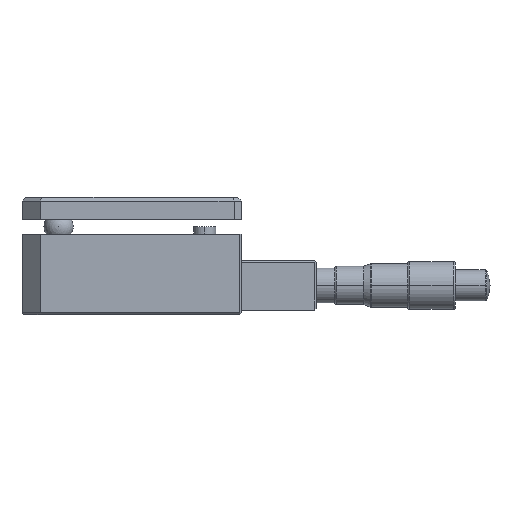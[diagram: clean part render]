
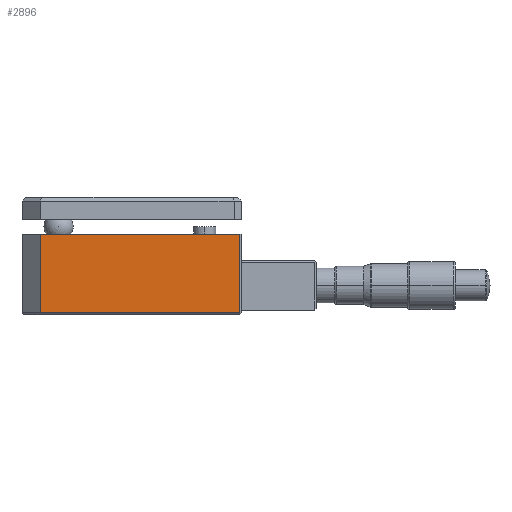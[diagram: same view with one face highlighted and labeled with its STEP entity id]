
A CAD part, left-side view. The second image highlights one B-rep face of the part: STEP entity #2896.
In plain terms, the highlighted planar face has unit normal (1, 0, 0).
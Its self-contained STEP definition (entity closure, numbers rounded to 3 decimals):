
#11 = CARTESIAN_POINT ( 'NONE',  ( -105.13, -10.578, 137.476 ) ) ;
#117 = VECTOR ( 'NONE', #2622, 1000. ) ;
#190 = FACE_OUTER_BOUND ( 'NONE', #4386, .T. ) ;
#527 = EDGE_CURVE ( 'NONE', #2999, #1494, #2511, .T. ) ;
#961 = VECTOR ( 'NONE', #3886, 1000. ) ;
#1223 = VECTOR ( 'NONE', #7221, 1000. ) ;
#1494 = VERTEX_POINT ( 'NONE', #4837 ) ;
#1749 = EDGE_CURVE ( 'NONE', #6884, #3239, #5692, .T. ) ;
#1925 = CARTESIAN_POINT ( 'NONE',  ( -105.13, 5.922, 137.476 ) ) ;
#1969 = DIRECTION ( 'NONE',  ( 1., 0., 0. ) ) ;
#2189 = LINE ( 'NONE', #4630, #1223 ) ;
#2320 = VECTOR ( 'NONE', #7055, 1000. ) ;
#2511 = LINE ( 'NONE', #11, #2320 ) ;
#2517 = ORIENTED_EDGE ( 'NONE', *, *, #5596, .F. ) ;
#2622 = DIRECTION ( 'NONE',  ( 0., 1., 0. ) ) ;
#2896 = ADVANCED_FACE ( 'NONE', ( #190 ), #6092, .T. ) ;
#2902 = CARTESIAN_POINT ( 'NONE',  ( -105.13, -10.578, 137.476 ) ) ;
#2999 = VERTEX_POINT ( 'NONE', #2902 ) ;
#3239 = VERTEX_POINT ( 'NONE', #7658 ) ;
#3584 = ORIENTED_EDGE ( 'NONE', *, *, #5180, .T. ) ;
#3886 = DIRECTION ( 'NONE',  ( 0., 0., -1. ) ) ;
#4386 = EDGE_LOOP ( 'NONE', ( #5555, #3584, #5244, #2517 ) ) ;
#4630 = CARTESIAN_POINT ( 'NONE',  ( -105.13, 18.922, 137.476 ) ) ;
#4837 = CARTESIAN_POINT ( 'NONE',  ( -105.13, -10.578, 115.976 ) ) ;
#5125 = LINE ( 'NONE', #7431, #117 ) ;
#5180 = EDGE_CURVE ( 'NONE', #1494, #3239, #5125, .T. ) ;
#5244 = ORIENTED_EDGE ( 'NONE', *, *, #1749, .F. ) ;
#5529 = DIRECTION ( 'NONE',  ( 0., 0., -1. ) ) ;
#5555 = ORIENTED_EDGE ( 'NONE', *, *, #527, .T. ) ;
#5596 = EDGE_CURVE ( 'NONE', #2999, #6884, #2189, .T. ) ;
#5692 = LINE ( 'NONE', #6915, #961 ) ;
#6092 = PLANE ( 'NONE',  #6183 ) ;
#6183 = AXIS2_PLACEMENT_3D ( 'NONE', #1925, #1969, #5529 ) ;
#6488 = CARTESIAN_POINT ( 'NONE',  ( -105.13, 43.922, 137.476 ) ) ;
#6884 = VERTEX_POINT ( 'NONE', #6488 ) ;
#6915 = CARTESIAN_POINT ( 'NONE',  ( -105.13, 43.922, 137.476 ) ) ;
#7055 = DIRECTION ( 'NONE',  ( 0., 0., -1. ) ) ;
#7221 = DIRECTION ( 'NONE',  ( 0., 1., 0. ) ) ;
#7431 = CARTESIAN_POINT ( 'NONE',  ( -105.13, 5.922, 115.976 ) ) ;
#7658 = CARTESIAN_POINT ( 'NONE',  ( -105.13, 43.922, 115.976 ) ) ;
